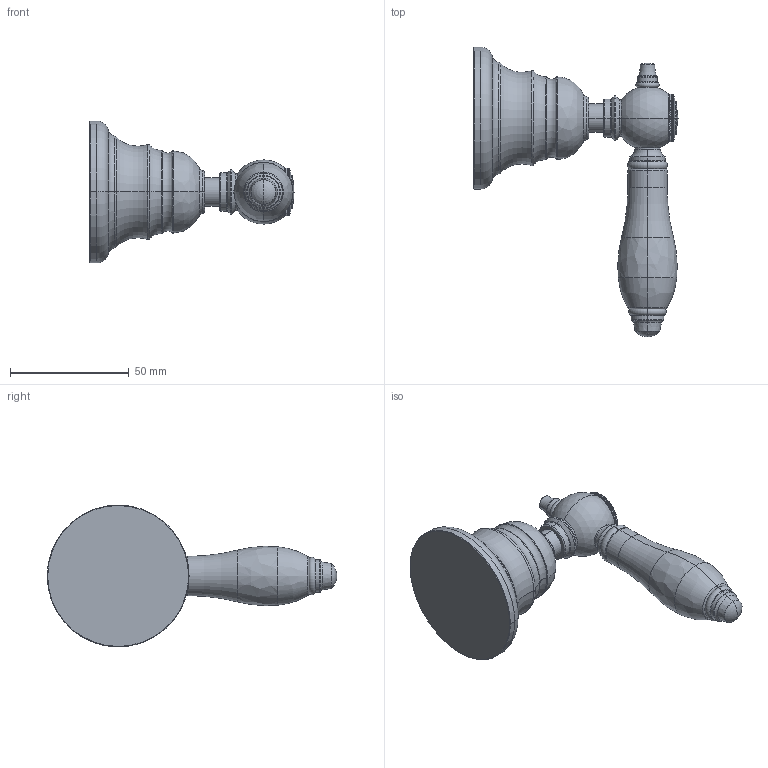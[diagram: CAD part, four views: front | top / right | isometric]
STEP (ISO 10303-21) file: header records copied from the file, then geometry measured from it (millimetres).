
FILE_DESCRIPTION((''),'2;1');
FILE_NAME('F5413_1_FILE_3D','2013-08-01T',('ivanv'),(''),'PRO/ENGINEER BY PARAMETRIC TECHNOLOGY CORPORATION, 2012130','PRO/ENGINEER BY PARAMETRIC TECHNOLOGY CORPORATION, 2012130','');
FILE_SCHEMA(('CONFIG_CONTROL_DESIGN'));
Length unit declared in the file: millimetre
Products named in the file (1): F5413_1_FILE_3D
Bounding box: 85.85 x 121.85 x 59.7 mm (x, y, z)
Volume: 91951.2 mm3; surface area: 23889.8 mm2
Topology: 2 solids, 4 shells, 868 faces, 2220 edges, 1370 vertices
Faces by surface type: plane 498, cylinder 212, torus 84, cone 58, sphere 10, bspline 6
Entity records: 27446 total; most frequent: CARTESIAN_POINT 6763, ORIENTED_EDGE 4424, DIRECTION 4292, EDGE_CURVE 2212, AXIS2_PLACEMENT_3D 1693, VERTEX_POINT 1370, VECTOR 906, LINE 906
